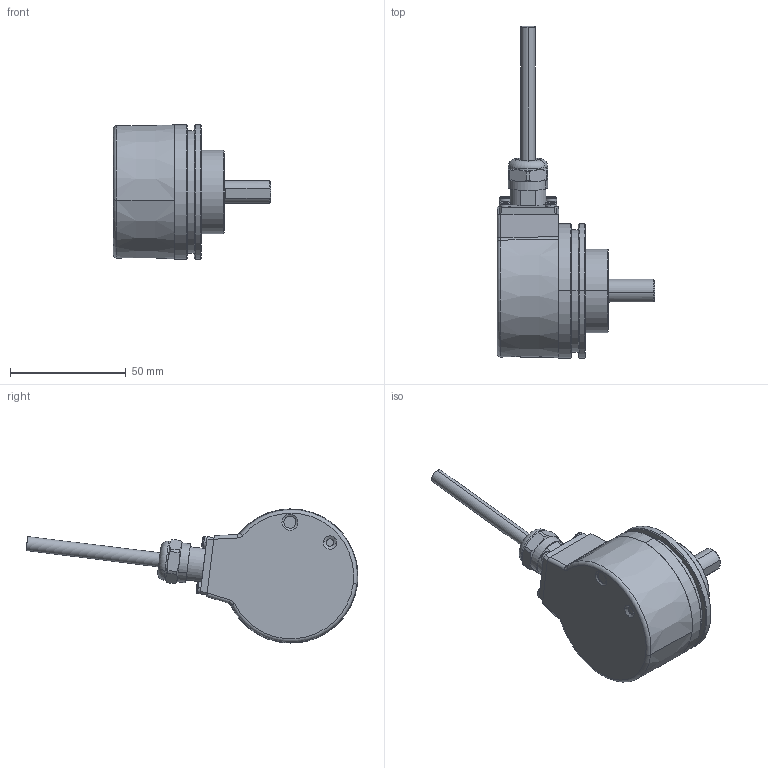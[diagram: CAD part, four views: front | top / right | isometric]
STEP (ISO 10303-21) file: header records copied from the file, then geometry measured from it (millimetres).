
FILE_DESCRIPTION (( 'STEP AP203' ), '1' );
FILE_NAME ('8.5814.12X2.XXXX.STEP', '2013-11-21T06:57:24', ( 'HeirlerN' ), ( 'Microsoft' ), 'SwSTEP 2.0', 'SolidWorks 2013', '' );
FILE_SCHEMA (( 'CONFIG_CONTROL_DESIGN' ));
Length unit declared in the file: millimetre
Products named in the file (1): 8.5814.12X2.XXXX
Bounding box: 68 x 143.51 x 58 mm (x, y, z)
Volume: 69111.1 mm3; surface area: 45460 mm2
Topology: 12 solids, 12 shells, 796 faces, 1945 edges, 1176 vertices
Faces by surface type: cylinder 234, plane 212, cone 200, torus 90, bspline 32, sphere 28
Entity records: 24779 total; most frequent: CARTESIAN_POINT 6338, DIRECTION 4067, ORIENTED_EDGE 3710, EDGE_CURVE 1855, AXIS2_PLACEMENT_3D 1698, VERTEX_POINT 1146, CIRCLE 933, EDGE_LOOP 899
